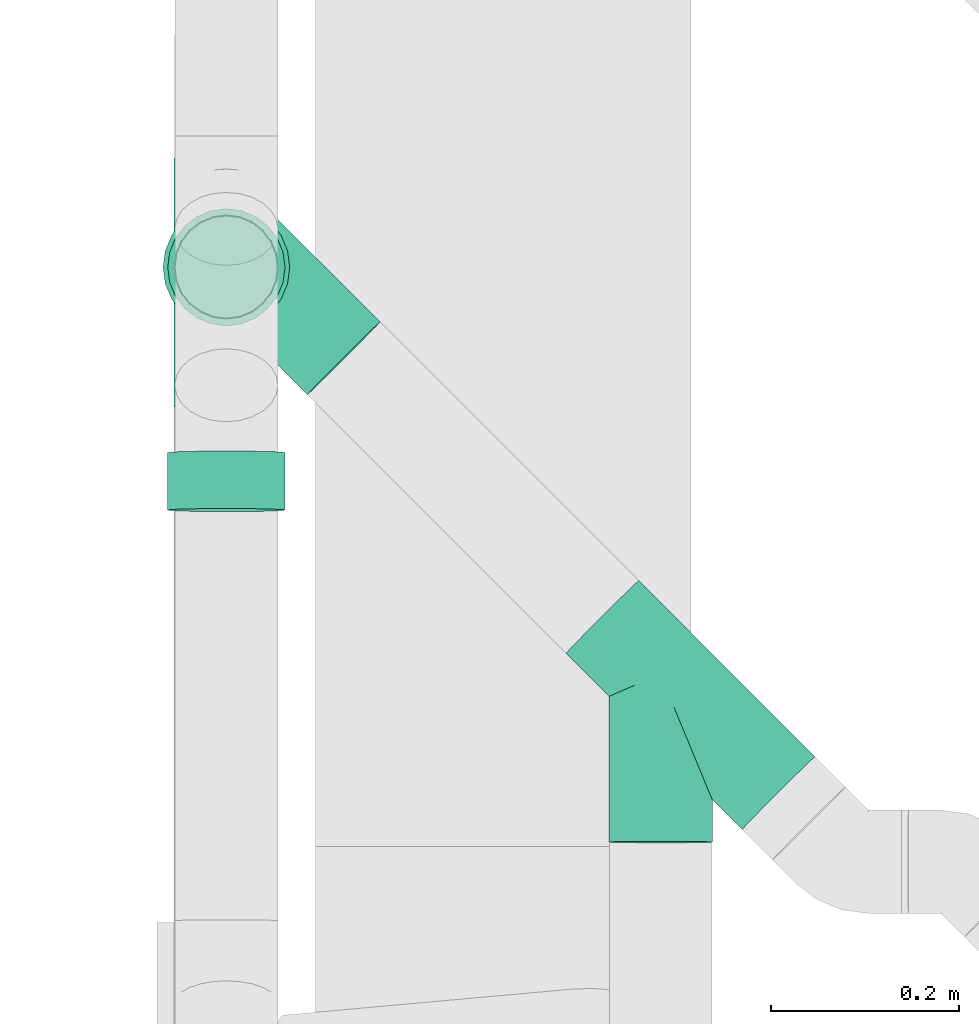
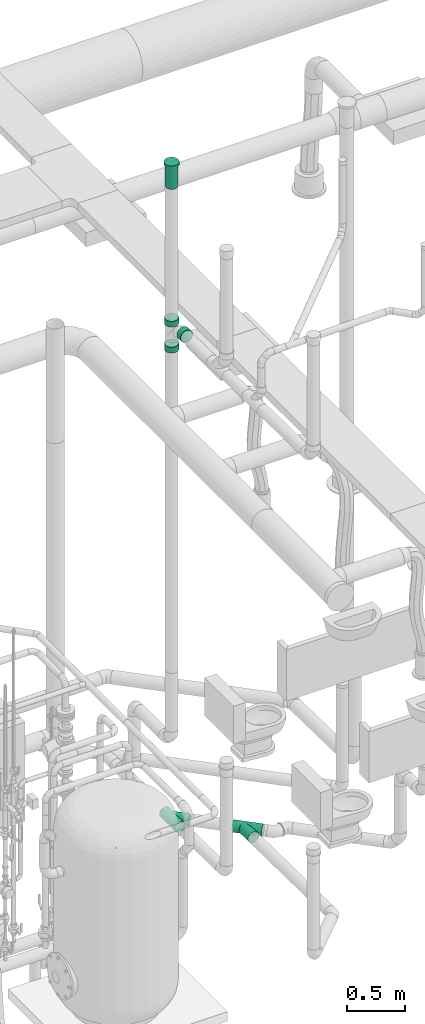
# One storey, part 135 of 374: 6 flow fittings.
"""IFC2X3 building model written with IfcOpenShell, lengths in metres."""

from ifc_helpers import new_model, si_unit, direction, origin, place, context, subcontext, project, spatial, open_shell, surface_model, source, transform, mapped, element, save


model = new_model("IFC2X3")

# Units and contexts
model_context = context("Model", 3, precision=1e-05, world=origin(), true_north=direction((-0.4480736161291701, 0.8939966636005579)))
body_context = subcontext(model_context, "Body", "Model", "MODEL_VIEW")
ifc_project = project(units=[si_unit("LENGTHUNIT", "METRE"), si_unit("AREAUNIT", "SQUARE_METRE"), si_unit("VOLUMEUNIT", "CUBIC_METRE"), si_unit("PLANEANGLEUNIT", "RADIAN"), si_unit("THERMODYNAMICTEMPERATUREUNIT", "KELVIN"), si_unit("MASSUNIT", "GRAM", prefix="KILO"), si_unit("TIMEUNIT", "SECOND")], contexts=[model_context])

# Site, building, storey
site_placement = place(None, origin())
site = spatial("IfcSite", under=ifc_project, at=site_placement, Name="Site 1", CompositionType="ELEMENT")
building_placement = place(site_placement, origin())
building = spatial("IfcBuilding", under=site, at=building_placement, Name="Undefined", CompositionType="ELEMENT")
storey_placement = place(building_placement, origin())
storey = spatial("IfcBuildingStorey", under=building, at=storey_placement, Name="Rez de chauss\x8ee", CompositionType="ELEMENT", Elevation=0.0)

# Flow fittings
shared_shape_1 = source(origin(), body_context, "Body", "SurfaceModel", [
    surface_model("IfcFaceBasedSurfaceModel", [(0.0, 0.0163157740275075, 0.0), (0.0, 0.0, 0.0), (0.06130000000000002, 0.0, 0.0), (0.06130000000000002, 0.0163157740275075, 0.0), (0.0, -0.015759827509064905, -0.004222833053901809), (0.06130000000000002, -0.015759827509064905, -0.004222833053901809), (0.0, -0.029889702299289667, -0.012380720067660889), (0.06130000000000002, -0.029889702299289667, -0.012380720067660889), (0.0, -0.04142669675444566, -0.02391771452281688), (0.06130000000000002, -0.04142669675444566, -0.02391771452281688), (0.0, -0.04958458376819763, -0.038047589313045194), (0.06130000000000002, -0.04958458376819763, -0.038047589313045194), (0.0, -0.053807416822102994, -0.053807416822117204), (0.06130000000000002, -0.053807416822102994, -0.053807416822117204), (0.0, -0.053807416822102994, -0.07012319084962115), (0.06130000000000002, -0.053807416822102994, -0.07012319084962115), (0.0, -0.04958458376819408, -0.08588301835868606), (0.06130000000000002, -0.04958458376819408, -0.08588301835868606), (0.0, -0.04142669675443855, -0.10001289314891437), (0.06130000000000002, -0.04142669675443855, -0.10001289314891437), (0.0, -0.02988970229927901, -0.11154988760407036), (0.06130000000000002, -0.02988970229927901, -0.11154988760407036), (0.0, -0.015759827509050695, -0.11970777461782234), (0.06130000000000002, -0.015759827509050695, -0.11970777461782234), (0.0, 1.4210854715e-14, -0.12393060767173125), (0.06130000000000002, 1.4210854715e-14, -0.12393060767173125), (0.0, 0.016315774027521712, -0.12393060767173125), (0.06130000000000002, 0.016315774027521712, -0.12393060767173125), (0.0, 0.03207560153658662, -0.11970777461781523), (0.06130000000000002, 0.03207560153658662, -0.11970777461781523), (0.0, 0.04620547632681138, -0.11154988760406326), (0.06130000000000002, 0.04620547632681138, -0.11154988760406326), (0.0, 0.05774247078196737, -0.10001289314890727), (0.06130000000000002, 0.05774247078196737, -0.10001289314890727), (0.0, 0.06590035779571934, -0.08588301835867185), (0.06130000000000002, 0.06590035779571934, -0.08588301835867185), (0.0, 0.0701231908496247, -0.07012319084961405), (0.06130000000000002, 0.0701231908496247, -0.07012319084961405), (0.0, 0.0701231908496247, -0.05380741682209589), (0.06130000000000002, 0.0701231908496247, -0.05380741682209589), (0.0, 0.06590035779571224, -0.03804758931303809), (0.06130000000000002, 0.06590035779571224, -0.03804758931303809), (0.0, 0.05774247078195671, -0.023917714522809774), (0.06130000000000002, 0.05774247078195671, -0.023917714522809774), (0.0, 0.04620547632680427, -0.012380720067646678), (0.06130000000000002, 0.04620547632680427, -0.012380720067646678), (0.0, 0.03207560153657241, -0.004222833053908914), (0.06130000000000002, 0.03207560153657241, -0.004222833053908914), (0.0, 0.00815788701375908, -0.06196530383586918), (0.06130000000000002, 0.00815788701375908, -0.06196530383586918)], [open_shell([[[0, 1, 2, 3]], [[1, 4, 5, 2]], [[4, 6, 7, 5]], [[6, 8, 9, 7]], [[8, 10, 11, 9]], [[10, 12, 13, 11]], [[12, 14, 15, 13]], [[14, 16, 17, 15]], [[16, 18, 19, 17]], [[18, 20, 21, 19]], [[20, 22, 23, 21]], [[22, 24, 25, 23]], [[24, 26, 27, 25]], [[26, 28, 29, 27]], [[28, 30, 31, 29]], [[30, 32, 33, 31]], [[32, 34, 35, 33]], [[34, 36, 37, 35]], [[36, 38, 39, 37]], [[38, 40, 41, 39]], [[40, 42, 43, 41]], [[42, 44, 45, 43]], [[44, 46, 47, 45]], [[46, 0, 3, 47]], [[48, 1, 0]], [[48, 4, 1]], [[48, 6, 4]], [[48, 8, 6]], [[48, 10, 8]], [[48, 12, 10]], [[48, 14, 12]], [[48, 16, 14]], [[48, 18, 16]], [[48, 20, 18]], [[48, 22, 20]], [[48, 24, 22]], [[48, 26, 24]], [[48, 28, 26]], [[48, 30, 28]], [[48, 32, 30]], [[48, 34, 32]], [[48, 36, 34]], [[48, 38, 36]], [[48, 40, 38]], [[48, 42, 40]], [[48, 44, 42]], [[48, 46, 44]], [[48, 0, 46]], [[49, 47, 3]], [[49, 45, 47]], [[49, 43, 45]], [[49, 41, 43]], [[49, 39, 41]], [[49, 37, 39]], [[49, 35, 37]], [[49, 33, 35]], [[49, 31, 33]], [[49, 29, 31]], [[49, 27, 29]], [[49, 25, 27]], [[49, 23, 25]], [[49, 21, 23]], [[49, 19, 21]], [[49, 17, 19]], [[49, 15, 17]], [[49, 13, 15]], [[49, 11, 13]], [[49, 9, 11]], [[49, 7, 9]], [[49, 5, 7]], [[49, 2, 5]], [[49, 3, 2]]])]),
])
flow_fitting_1_placement = place(storey_placement, origin())
element("IfcFlowFitting", 1, at=flow_fitting_1_placement, inside=storey, Name="PE-HD manchon électro soudable", ObjectType="PE-HD manchon électro soudable", context=body_context, shape_type="MappedRepresentation", body=[
    mapped(shared_shape_1, transform((57.13437036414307, 13.501805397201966, 4.031588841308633), x_axis=(0.0, 0.9996573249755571, -0.026176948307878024), y_axis=(0.13052619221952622, 0.025953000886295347, 0.9911051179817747), z_axis=(0.9914448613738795, -0.0034167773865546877, -0.13048146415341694))),
])
flow_fitting_2_placement = place(storey_placement, origin())
element("IfcFlowFitting", 2, at=flow_fitting_2_placement, inside=storey, Name="PE-HD manchon électro soudable", ObjectType="PE-HD manchon électro soudable", context=body_context, shape_type="MappedRepresentation", body=[
    mapped(shared_shape_1, transform((57.13437036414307, 13.777176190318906, 4.029537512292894), x_axis=(0.0, 0.0, 1.0), y_axis=(0.13052619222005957, -0.9914448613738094, 0.0), z_axis=(0.9914448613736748, 0.13052619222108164, 0.0))),
])
flow_fitting_3_placement = place(storey_placement, origin())
element("IfcFlowFitting", 3, at=flow_fitting_3_placement, inside=storey, Name="PE-HD manchon électro soudable", ObjectType="PE-HD manchon électro soudable", context=body_context, shape_type="MappedRepresentation", body=[
    mapped(shared_shape_1, transform((57.13437036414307, 13.74482380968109, 3.817837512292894), x_axis=(0.0, 0.0, -1.0), y_axis=(0.13052619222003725, 0.9914448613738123, 0.0), z_axis=(0.9914448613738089, -0.13052619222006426, 0.0))),
])
shared_shape_2 = source(origin(), body_context, "Body", "SurfaceModel", [
    surface_model("IfcFaceBasedSurfaceModel", [(0.0, 0.014357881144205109, -3.552713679e-15), (0.0, 0.0, 0.0), (0.2295000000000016, -2.22044605e-16, 0.0), (0.2295000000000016, 0.014357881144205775, 0.0), (0.0, -0.01386864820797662, -0.0037160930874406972), (0.2295000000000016, -0.013868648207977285, -0.0037160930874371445), (0.0, -0.026302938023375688, -0.010895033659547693), (0.2295000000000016, -0.02630293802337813, -0.01089503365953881), (0.0, -0.03645549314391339, -0.021047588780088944), (0.2295000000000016, -0.036455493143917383, -0.021047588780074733), (0.0, -0.04363443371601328, -0.033481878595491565), (0.2295000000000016, -0.04363443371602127, -0.0334818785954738), (0.0, -0.04735052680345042, -0.04735052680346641), (0.2295000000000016, -0.04735052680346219, -0.04735052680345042), (0.0, -0.04735052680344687, -0.06170840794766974), (0.2295000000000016, -0.047350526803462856, -0.06170840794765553), (0.0, -0.04363443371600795, -0.07557705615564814), (0.2295000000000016, -0.04363443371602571, -0.07557705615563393), (0.0, -0.03645549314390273, -0.08801134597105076), (0.2295000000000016, -0.03645549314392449, -0.08801134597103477), (0.0, -0.026302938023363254, -0.0981639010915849), (0.2295000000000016, -0.02630293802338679, -0.09816390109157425), (0.0, -0.013868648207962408, -0.1053428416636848), (0.2295000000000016, -0.013868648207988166, -0.10534284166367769), (0.0, 1.5987211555e-14, -0.10905893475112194), (0.2295000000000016, -1.1546319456e-14, -0.10905893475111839), (0.0, 0.014357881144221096, -0.10905893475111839), (0.2295000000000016, 0.014357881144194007, -0.10905893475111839), (0.0, 0.028226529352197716, -0.10534284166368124), (0.2295000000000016, 0.028226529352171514, -0.10534284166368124), (0.0, 0.040660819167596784, -0.0981639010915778), (0.2295000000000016, 0.04066081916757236, -0.09816390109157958), (0.0, 0.05081337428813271, -0.08801134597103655), (0.2295000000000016, 0.05081337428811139, -0.08801134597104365), (0.0, 0.05799231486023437, -0.07557705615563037), (0.2295000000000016, 0.05799231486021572, -0.07557705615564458), (0.0, 0.06170840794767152, -0.06170840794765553), (0.2295000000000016, 0.06170840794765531, -0.061708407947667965), (0.0, 0.061708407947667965, -0.0473505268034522), (0.2295000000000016, 0.06170840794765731, -0.047350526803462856), (0.0, 0.05799231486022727, -0.033481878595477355), (0.2295000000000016, 0.05799231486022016, -0.03348187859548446), (0.0, 0.050813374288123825, -0.021047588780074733), (0.2295000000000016, 0.05081337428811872, -0.021047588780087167), (0.0, 0.04066081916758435, -0.010895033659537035), (0.2295000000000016, 0.04066081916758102, -0.01089503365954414), (0.0, 0.028226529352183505, -0.0037160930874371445), (0.2295000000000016, 0.02822652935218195, -0.0037160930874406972), (0.2295000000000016, 0.01598945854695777, 0.01239306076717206), (0.2295000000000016, -0.001631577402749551, 0.012393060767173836), (0.25499999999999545, -0.001631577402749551, 0.012393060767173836), (0.25499999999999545, 0.01598945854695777, 0.01239306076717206), (0.2295000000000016, -0.018652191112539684, 0.00783240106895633), (0.25499999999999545, -0.018652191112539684, 0.00783240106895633), (0.2295000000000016, -0.033912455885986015, -0.0009781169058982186), (0.25499999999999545, -0.033912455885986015, -0.0009781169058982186), (0.2295000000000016, -0.04637240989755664, -0.013438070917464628), (0.25499999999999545, -0.04637240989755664, -0.013438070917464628), (0.2295000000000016, -0.05518292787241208, -0.02869833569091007), (0.25499999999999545, -0.05518292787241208, -0.02869833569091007), (0.2295000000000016, -0.05974358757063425, -0.045718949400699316), (0.25499999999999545, -0.05974358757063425, -0.045718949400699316), (0.2295000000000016, -0.0597435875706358, -0.06333998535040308), (0.25499999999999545, -0.0597435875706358, -0.06333998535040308), (0.2295000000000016, -0.05518292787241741, -0.08036059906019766), (0.25499999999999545, -0.05518292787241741, -0.08036059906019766), (0.2295000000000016, -0.04637240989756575, -0.0956208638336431), (0.25499999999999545, -0.04637240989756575, -0.0956208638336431), (0.2295000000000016, -0.03391245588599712, -0.10808081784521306), (0.25499999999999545, -0.03391245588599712, -0.10808081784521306), (0.2295000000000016, -0.01865219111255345, -0.11689133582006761), (0.25499999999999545, -0.01865219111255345, -0.11689133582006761), (0.2295000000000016, -0.0016315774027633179, -0.12145199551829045), (0.25499999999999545, -0.0016315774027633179, -0.12145199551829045), (0.2295000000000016, 0.015989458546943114, -0.12145199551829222), (0.25499999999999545, 0.015989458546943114, -0.12145199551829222), (0.2295000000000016, 0.033010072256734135, -0.11689133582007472), (0.25499999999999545, 0.033010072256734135, -0.11689133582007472), (0.2295000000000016, 0.04827033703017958, -0.10808081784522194), (0.25499999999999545, 0.04827033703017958, -0.10808081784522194), (0.2295000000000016, 0.060730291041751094, -0.09562086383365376), (0.25499999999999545, 0.060730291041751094, -0.09562086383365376), (0.2295000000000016, 0.06954080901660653, -0.08036059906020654), (0.25499999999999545, 0.06954080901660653, -0.08036059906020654), (0.2295000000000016, 0.07410146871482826, -0.06333998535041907), (0.25499999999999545, 0.07410146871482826, -0.06333998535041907), (0.2295000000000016, 0.07410146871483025, -0.04571894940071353), (0.25499999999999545, 0.07410146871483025, -0.04571894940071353), (0.2295000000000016, 0.06954080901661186, -0.02869833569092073), (0.25499999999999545, 0.06954080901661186, -0.02869833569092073), (0.2295000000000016, 0.06073029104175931, -0.013438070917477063), (0.25499999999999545, 0.06073029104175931, -0.013438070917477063), (0.2295000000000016, 0.04827033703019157, -0.000978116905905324), (0.25499999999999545, 0.04827033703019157, -0.000978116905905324), (0.2295000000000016, 0.033010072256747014, 0.007832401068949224), (0.25499999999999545, 0.033010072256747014, 0.007832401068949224), (0.2295000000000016, 0.007178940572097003, -0.05452946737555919), (0.25499999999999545, 0.007178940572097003, -0.05452946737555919)], [open_shell([[[0, 1, 2, 3]], [[1, 4, 5, 2]], [[4, 6, 7, 5]], [[6, 8, 9, 7]], [[8, 10, 11, 9]], [[10, 12, 13, 11]], [[12, 14, 15, 13]], [[14, 16, 17, 15]], [[16, 18, 19, 17]], [[18, 20, 21, 19]], [[20, 22, 23, 21]], [[22, 24, 25, 23]], [[24, 26, 27, 25]], [[26, 28, 29, 27]], [[28, 30, 31, 29]], [[30, 32, 33, 31]], [[32, 34, 35, 33]], [[34, 36, 37, 35]], [[36, 38, 39, 37]], [[38, 40, 41, 39]], [[40, 42, 43, 41]], [[42, 44, 45, 43]], [[44, 46, 47, 45]], [[46, 0, 3, 47]], [[48, 49, 50, 51]], [[49, 52, 53, 50]], [[52, 54, 55, 53]], [[54, 56, 57, 55]], [[56, 58, 59, 57]], [[58, 60, 61, 59]], [[60, 62, 63, 61]], [[62, 64, 65, 63]], [[64, 66, 67, 65]], [[66, 68, 69, 67]], [[68, 70, 71, 69]], [[70, 72, 73, 71]], [[72, 74, 75, 73]], [[74, 76, 77, 75]], [[76, 78, 79, 77]], [[78, 80, 81, 79]], [[80, 82, 83, 81]], [[82, 84, 85, 83]], [[84, 86, 87, 85]], [[86, 88, 89, 87]], [[88, 90, 91, 89]], [[90, 92, 93, 91]], [[92, 94, 95, 93]], [[94, 48, 51, 95]], [[96, 49, 48]], [[96, 52, 49]], [[96, 54, 52]], [[96, 56, 54]], [[96, 58, 56]], [[96, 60, 58]], [[96, 62, 60]], [[96, 64, 62]], [[96, 66, 64]], [[96, 68, 66]], [[96, 70, 68]], [[96, 72, 70]], [[96, 74, 72]], [[96, 76, 74]], [[96, 78, 76]], [[96, 80, 78]], [[96, 82, 80]], [[96, 84, 82]], [[96, 86, 84]], [[96, 88, 86]], [[96, 90, 88]], [[96, 92, 90]], [[96, 94, 92]], [[96, 48, 94]], [[97, 95, 51]], [[97, 93, 95]], [[97, 91, 93]], [[97, 89, 91]], [[97, 87, 89]], [[97, 85, 87]], [[97, 83, 85]], [[97, 81, 83]], [[97, 79, 81]], [[97, 77, 79]], [[97, 75, 77]], [[97, 73, 75]], [[97, 71, 73]], [[97, 69, 71]], [[97, 67, 69]], [[97, 65, 67]], [[97, 63, 65]], [[97, 61, 63]], [[97, 59, 61]], [[97, 57, 59]], [[97, 55, 57]], [[97, 53, 55]], [[97, 50, 53]], [[97, 51, 50]]])]),
])
flow_fitting_4_placement = place(storey_placement, origin())
element("IfcFlowFitting", 4, at=flow_fitting_4_placement, inside=storey, Name="PE-HD machon long", ObjectType="PE-HD machon long", context=body_context, shape_type="MappedRepresentation", body=[
    mapped(shared_shape_2, transform((57.12712592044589, 13.775235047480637, 5.477438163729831), x_axis=(0.0, 0.0, 1.0), y_axis=(0.13052619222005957, -0.9914448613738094, 0.0), z_axis=(0.9914448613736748, 0.13052619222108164, 0.0))),
])
shared_shape_3 = source(origin(), body_context, "Body", "SurfaceModel", [
    surface_model("IfcFaceBasedSurfaceModel", [(0.0, 0.014357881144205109, -3.552713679e-15), (0.0, 0.0, 0.0), (0.2656999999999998, 0.0, 0.0), (0.2656999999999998, 0.014357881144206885, 0.0), (0.0, -0.01386864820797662, -0.0037160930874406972), (0.2656999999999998, -0.013868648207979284, -0.003716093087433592), (0.0, -0.026302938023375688, -0.010895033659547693), (0.2656999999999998, -0.026302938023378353, -0.010895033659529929), (0.0, -0.03645549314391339, -0.021047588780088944), (0.2656999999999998, -0.03645549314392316, -0.021047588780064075), (0.0, -0.04363443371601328, -0.033481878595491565), (0.2656999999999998, -0.043634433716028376, -0.033481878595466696), (0.0, -0.04735052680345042, -0.04735052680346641), (0.2656999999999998, -0.0473505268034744, -0.047350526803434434), (0.0, -0.04735052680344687, -0.06170840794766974), (0.2656999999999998, -0.04735052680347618, -0.06170840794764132), (0.0, -0.04363443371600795, -0.07557705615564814), (0.2656999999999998, -0.04363443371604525, -0.07557705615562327), (0.0, -0.03645549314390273, -0.08801134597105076), (0.2656999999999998, -0.036455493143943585, -0.08801134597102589), (0.0, -0.026302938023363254, -0.0981639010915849), (0.2656999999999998, -0.026302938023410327, -0.09816390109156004), (0.0, -0.013868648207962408, -0.1053428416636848), (0.2656999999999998, -0.013868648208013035, -0.10534284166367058), (0.0, 1.5987211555e-14, -0.10905893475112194), (0.2656999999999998, -3.6415315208e-14, -0.10905893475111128), (0.0, 0.014357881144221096, -0.10905893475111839), (0.2656999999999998, 0.014357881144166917, -0.10905893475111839), (0.0, 0.028226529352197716, -0.10534284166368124), (0.2656999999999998, 0.02822652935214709, -0.1053428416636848), (0.0, 0.040660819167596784, -0.0981639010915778), (0.2656999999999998, 0.04066081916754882, -0.09816390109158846), (0.0, 0.05081337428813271, -0.08801134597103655), (0.2656999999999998, 0.0508133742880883, -0.08801134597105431), (0.0, 0.05799231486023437, -0.07557705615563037), (0.2656999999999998, 0.05799231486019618, -0.07557705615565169), (0.0, 0.06170840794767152, -0.06170840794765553), (0.2656999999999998, 0.06170840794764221, -0.06170840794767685), (0.0, 0.061708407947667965, -0.0473505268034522), (0.2656999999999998, 0.061708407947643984, -0.04735052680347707), (0.0, 0.05799231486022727, -0.033481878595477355), (0.2656999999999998, 0.05799231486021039, -0.03348187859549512), (0.0, 0.050813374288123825, -0.021047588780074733), (0.2656999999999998, 0.050813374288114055, -0.021047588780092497), (0.0, 0.04066081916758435, -0.010895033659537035), (0.2656999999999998, 0.04066081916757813, -0.01089503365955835), (0.0, 0.028226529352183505, -0.0037160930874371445), (0.2656999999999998, 0.028226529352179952, -0.0037160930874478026), (0.22063174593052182, 0.06170840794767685, -0.06170840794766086), (0.21610731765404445, 0.05799231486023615, -0.07557705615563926), (0.2511746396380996, 0.09275963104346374, -0.08015426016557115), (0.2524998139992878, 0.09330384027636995, -0.06586802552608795), (0.202842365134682, 0.0508133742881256, -0.08801134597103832), (0.24728942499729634, 0.09488018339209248, -0.09381285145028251), (0.18174087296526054, 0.04066081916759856, -0.0981639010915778), (0.2411089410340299, 0.09952098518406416, -0.10591298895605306), (0.15424087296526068, 0.028226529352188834, -0.10534284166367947), (0.2330543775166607, 0.10636577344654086, -0.11563006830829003), (0.12221644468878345, 0.01435788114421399, -0.10905893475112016), (0.22367463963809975, 0.11494808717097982, -0.12230188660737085), (0.08784999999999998, -3.6415315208e-14, -0.10905893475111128), (0.2136089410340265, 0.12468305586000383, -0.1254737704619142), (0.08195365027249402, 0.014357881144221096, -0.10905893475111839), (0.20354324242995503, 0.134907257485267, -0.12492956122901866), (0.07645912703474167, 0.028226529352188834, -0.10534284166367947), (0.19416350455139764, 0.14492392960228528, -0.12070634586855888), (0.07174087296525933, 0.04066081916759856, -0.0981639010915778), (0.18610894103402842, 0.15405045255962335, -0.11309192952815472), (0.06812042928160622, 0.0508133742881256, -0.08801134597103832), (0.17992845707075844, 0.16166486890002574, -0.1026052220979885), (0.06584452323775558, 0.057992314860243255, -0.07557705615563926), (0.17604324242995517, 0.1672482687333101, -0.08996087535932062), (0.06506825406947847, 0.06170840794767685, -0.061708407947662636), (0.174718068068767, 0.1704201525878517, -0.07602058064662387), (0.0658445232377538, 0.06170840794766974, -0.047350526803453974), (0.17604324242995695, 0.17096436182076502, -0.061734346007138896), (0.06812042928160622, 0.05799231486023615, -0.03348187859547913), (0.17992845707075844, 0.16884380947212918, -0.04807575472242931), (0.0717408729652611, 0.0508133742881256, -0.021047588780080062), (0.18610894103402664, 0.1642030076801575, -0.035975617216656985), (0.0764591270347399, 0.040660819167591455, -0.010895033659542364), (0.19416350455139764, 0.1573582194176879, -0.026258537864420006), (0.08195365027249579, 0.028226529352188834, -0.0037160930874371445), (0.2035432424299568, 0.14877590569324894, -0.01958671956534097), (0.08784999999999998, 0.014357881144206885, 0.0), (0.21360894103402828, 0.13904093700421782, -0.016414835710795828), (0.12221644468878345, 0.028226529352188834, -0.003716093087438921), (0.22367463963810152, 0.12881673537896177, -0.01695904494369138), (0.1542408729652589, 0.040660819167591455, -0.010895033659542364), (0.23305437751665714, 0.11880006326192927, -0.021182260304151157), (0.1817408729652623, 0.0508133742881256, -0.021047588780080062), (0.24110894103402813, 0.1096735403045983, -0.02879667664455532), (0.20284236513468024, 0.057992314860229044, -0.03348187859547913), (0.24728942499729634, 0.10205912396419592, -0.03928338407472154), (0.21610731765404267, 0.06170840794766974, -0.04735052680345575), (0.2511746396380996, 0.09647572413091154, -0.05192773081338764)], [open_shell([[[0, 1, 2, 3]], [[1, 4, 5, 2]], [[4, 6, 7, 5]], [[6, 8, 9, 7]], [[8, 10, 11, 9]], [[10, 12, 13, 11]], [[12, 14, 15, 13]], [[14, 16, 17, 15]], [[16, 18, 19, 17]], [[18, 20, 21, 19]], [[20, 22, 23, 21]], [[22, 24, 25, 23]], [[24, 26, 27, 25]], [[26, 28, 29, 27]], [[28, 30, 31, 29]], [[30, 32, 33, 31]], [[32, 34, 35, 33]], [[34, 36, 37, 35]], [[36, 38, 39, 37]], [[38, 40, 41, 39]], [[40, 42, 43, 41]], [[42, 44, 45, 43]], [[44, 46, 47, 45]], [[46, 0, 3, 47]], [[48, 49, 50, 51]], [[49, 52, 53, 50]], [[52, 54, 55, 53]], [[54, 56, 57, 55]], [[56, 58, 59, 57]], [[58, 60, 61, 59]], [[60, 62, 63, 61]], [[62, 64, 65, 63]], [[64, 66, 67, 65]], [[66, 68, 69, 67]], [[68, 70, 71, 69]], [[70, 72, 73, 71]], [[72, 74, 75, 73]], [[74, 76, 77, 75]], [[76, 78, 79, 77]], [[78, 80, 81, 79]], [[80, 82, 83, 81]], [[82, 84, 85, 83]], [[84, 86, 87, 85]], [[86, 88, 89, 87]], [[88, 90, 91, 89]], [[90, 92, 93, 91]], [[92, 94, 95, 93]], [[94, 48, 51, 95]]])]),
])
flow_fitting_5_placement = place(storey_placement, origin())
element("IfcFlowFitting", 5, at=flow_fitting_5_placement, inside=storey, Name="PE-HD embranchement 45°", ObjectType="PE-HD embranchement 45°", context=body_context, shape_type="MappedRepresentation", body=[
    mapped(shared_shape_3, transform((57.058826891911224, 13.878362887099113, -1.143684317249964), x_axis=(0.0, -0.9998875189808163, 0.014998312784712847), y_axis=(0.9906148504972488, 0.002050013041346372, 0.13666753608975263), z_axis=(-0.13668291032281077, 0.014857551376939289, 0.9905034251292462))),
])
flow_fitting_6_placement = place(storey_placement, origin())
element("IfcFlowFitting", 6, at=flow_fitting_6_placement, inside=storey, Name="PE-HD embranchement 45°", ObjectType="PE-HD embranchement 45°", context=body_context, shape_type="MappedRepresentation", body=[
    mapped(shared_shape_3, transform((57.48521500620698, 13.397574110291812, -1.240089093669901), x_axis=(0.7070272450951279, -0.7070272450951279, 0.014998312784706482), y_axis=(-0.7002982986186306, -0.7029361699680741, -0.12435044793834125), z_axis=(0.0984620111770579, 0.07741586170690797, -0.9921250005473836))),
])

save(model, "model.ifc")
